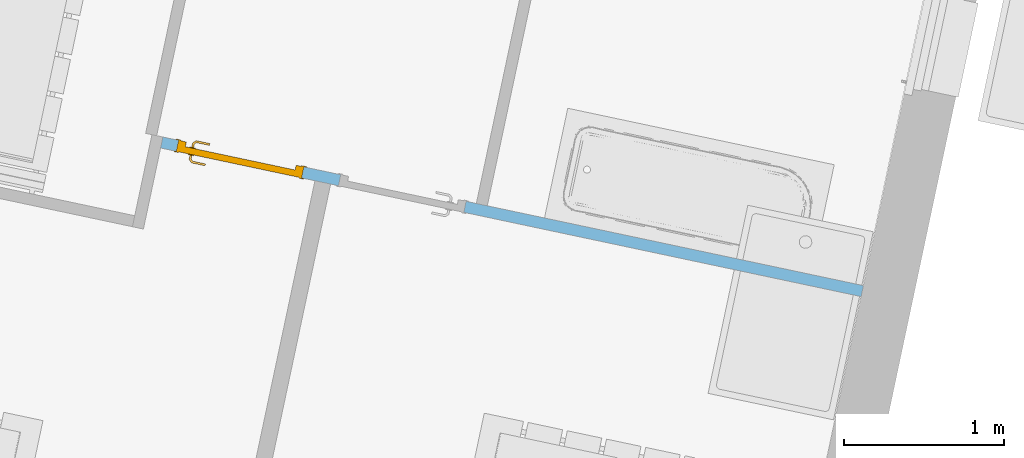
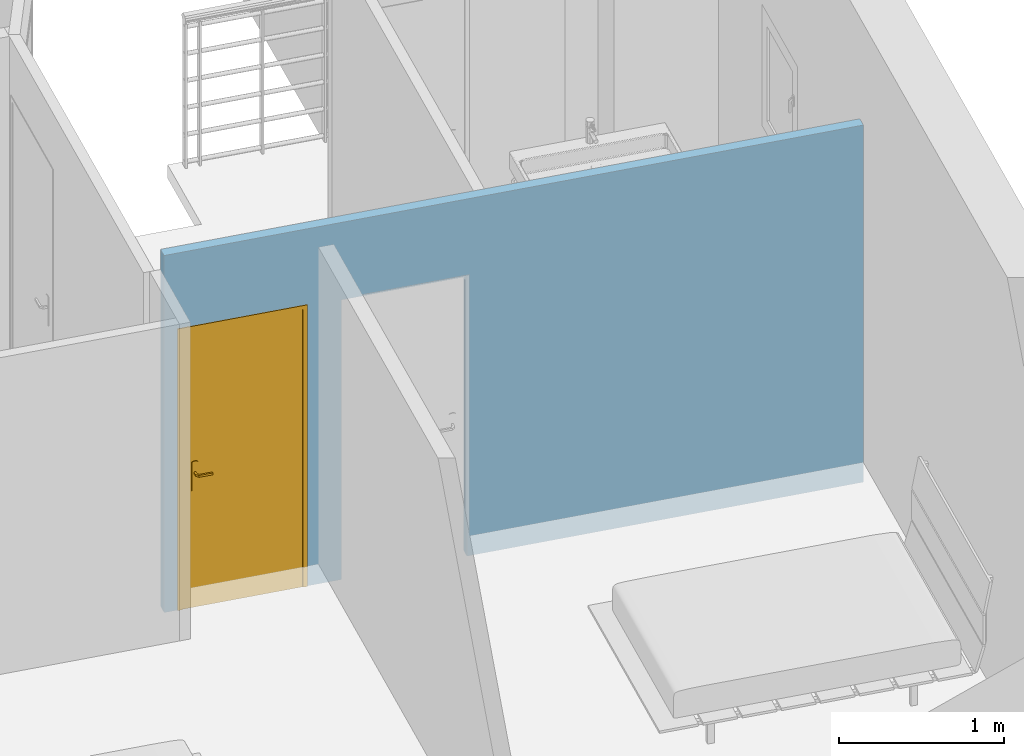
# One storey, part 5 of 18: 1 door, 2 openings, plus 1 element that does not belong to this part.
"""IFC2X3 building model written with IfcOpenShell, lengths in metres."""

from ifc_helpers import new_model, entity, si_unit, converted_unit, derived_unit, direction, frame, frame_2d, origin, place, context, subcontext, project, spatial, rectangle, extrude, faceted_brep, source, transform, mapped, material, material_list, layer, layer_set, layer_usage, type_object, type_shapes, element, fill, save


model = new_model("IFC2X3")

# Units and contexts
model_context = context("Model", 3, precision=1e-05, world=origin(), true_north=direction((6.12303176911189e-17, 1.0)))
body_context = subcontext(model_context, "Body", "Model", "MODEL_VIEW")
ifc_project = project(units=[si_unit("LENGTHUNIT", "METRE"), si_unit("AREAUNIT", "SQUARE_METRE"), si_unit("VOLUMEUNIT", "CUBIC_METRE"), converted_unit("PLANEANGLEUNIT", "DEGREE", entity("IfcRatioMeasure", 0.0174532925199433), si_unit("PLANEANGLEUNIT", "RADIAN"), dimensions=[0, 0, 0, 0, 0, 0, 0]), si_unit("MASSUNIT", "GRAM", prefix="KILO"), derived_unit("MASSDENSITYUNIT", [(si_unit("MASSUNIT", "GRAM", prefix="KILO"), 1), (si_unit("LENGTHUNIT", "METRE"), -3)]), si_unit("TIMEUNIT", "SECOND"), si_unit("FREQUENCYUNIT", "HERTZ"), si_unit("THERMODYNAMICTEMPERATUREUNIT", "DEGREE_CELSIUS"), derived_unit("THERMALTRANSMITTANCEUNIT", [(si_unit("MASSUNIT", "GRAM", prefix="KILO"), 1), (si_unit("THERMODYNAMICTEMPERATUREUNIT", "KELVIN"), -1), (si_unit("TIMEUNIT", "SECOND"), -3)]), derived_unit("VOLUMETRICFLOWRATEUNIT", [(si_unit("LENGTHUNIT", "METRE"), 3), (si_unit("TIMEUNIT", "SECOND"), -1)]), si_unit("ELECTRICCURRENTUNIT", "AMPERE"), si_unit("ELECTRICVOLTAGEUNIT", "VOLT"), si_unit("POWERUNIT", "WATT"), si_unit("FORCEUNIT", "NEWTON", prefix="KILO"), si_unit("ILLUMINANCEUNIT", "LUX"), si_unit("LUMINOUSFLUXUNIT", "LUMEN"), si_unit("LUMINOUSINTENSITYUNIT", "CANDELA"), derived_unit("USERDEFINED", [(si_unit("MASSUNIT", "GRAM", prefix="KILO"), -1), (si_unit("LENGTHUNIT", "METRE"), -2), (si_unit("TIMEUNIT", "SECOND"), 3), (si_unit("LUMINOUSFLUXUNIT", "LUMEN"), 1)]), derived_unit("LINEARVELOCITYUNIT", [(si_unit("LENGTHUNIT", "METRE"), 1), (si_unit("TIMEUNIT", "SECOND"), -1)]), si_unit("PRESSUREUNIT", "PASCAL"), derived_unit("USERDEFINED", [(si_unit("LENGTHUNIT", "METRE"), -2), (si_unit("MASSUNIT", "GRAM", prefix="KILO"), 1), (si_unit("TIMEUNIT", "SECOND"), -2)])], contexts=[model_context])

# Site, building, storey
site_placement = place(None, origin())
site = spatial("IfcSite", under=ifc_project, at=site_placement, Name="Default", CompositionType="ELEMENT")
building_placement = place(site_placement, origin())
building = spatial("IfcBuilding", under=site, at=building_placement, CompositionType="ELEMENT")
storey_placement = place(building_placement, frame((0.0, 0.0, 2.8)))
storey = spatial("IfcBuildingStorey", under=building, at=storey_placement, Name="ETAGE", CompositionType="ELEMENT", Elevation=2.8)

# Wall, openings, door
ifc_material_1 = material(Name="Mur par défaut")
ifc_layer = layer(ifc_material_1, 0.07)
ifc_layer_set = layer_set([ifc_layer], Name="Mur de base:Int.  Platre 70 mm")
ifc_layer_usage = layer_usage(ifc_layer_set, "AXIS2", "NEGATIVE", 0.035)
wall_type = type_object("IfcWallType", Name="Mur de base:Int.  Platre 70 mm", PredefinedType="STANDARD", material=ifc_layer_set)
wall_placement = place(storey_placement, frame((-11.0295461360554, 78.4394398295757, 0.0), z_axis=(0.0, 0.0, 1.0), x_axis=(-0.978238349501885, 0.207484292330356, 0.0)))
wall = element("IfcWallStandardCase", 1, at=wall_placement, inside=storey, type_object=wall_type, material=ifc_layer_usage, Name="Mur de base:Int.  Platre 70 mm", ObjectType="Mur de base:Int.  Platre 70 mm", context=body_context, shape_type="SweptSolid", body=[
    extrude(rectangle(XDim=4.47000000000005, YDim=0.0699999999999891, at=frame_2d((2.23500000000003, -2.4008572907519e-15), x_axis=(-1.0, 0.0))), origin(), (0.0, 0.0, 1.0), 2.65),
])
opening_1_placement = place(wall_placement, frame((2.53500000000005, -0.035, 0.0)))
element("IfcOpeningElement", 2, at=opening_1_placement, cuts=wall, Name="Int. Simple:PP (0.73m x 2.04m):1", ObjectType="Opening", context=body_context, shape_type="SweptSolid", body=[
    extrude(rectangle(XDim=2.075, YDim=0.799999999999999, at=frame_2d((1.0375, 0.4), x_axis=(1.0, 0.0))), frame((0.0, 0.0, 0.0), z_axis=(0.0, 1.0, 0.0), x_axis=(0.0, 0.0, 1.0)), (0.0, 0.0, 1.0), 0.07),
])
opening_2_placement = place(wall_placement, frame((3.57000000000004, -0.035, 0.0)))
opening_2 = element("IfcOpeningElement", 3, at=opening_2_placement, cuts=wall, Name="Int. Simple:PP (0.73m x 2.04m):1", ObjectType="Opening", context=body_context, shape_type="SweptSolid", body=[
    extrude(rectangle(XDim=2.075, YDim=0.799999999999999, at=frame_2d((1.0375, 0.4), x_axis=(1.0, 0.0))), frame((0.0, 0.0, 0.0), z_axis=(0.0, 1.0, 0.0), x_axis=(0.0, 0.0, 1.0)), (0.0, 0.0, 1.0), 0.07),
])
ifc_material_2 = material(Name="Finition Peinture - Blanc satiné")
ifc_material_3 = material(Name="Bois - Mélaminé hêtre")
ifc_material_list_1 = material_list([ifc_material_2, ifc_material_3])
ifc_material_list_2 = material_list([ifc_material_2, ifc_material_3])
door_style = type_object("IfcDoorStyle", Name="PP (0.73m x 2.04m)", ConstructionType="NOTDEFINED", OperationType="SINGLE_SWING_LEFT", ParameterTakesPrecedence=False, Sizeable=False, material=ifc_material_list_2)
shared_shape = source(origin(), body_context, "Body", "Brep", [
    faceted_brep([(0.105352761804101, -0.00500000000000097, 0.866003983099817), (0.115, -0.00500000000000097, 0.870000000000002), (0.114999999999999, -0.00500000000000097, 1.08), (0.1053527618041, -0.00500000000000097, 1.08399601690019), (0.0949999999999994, -0.00500000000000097, 1.08535898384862), (0.0846472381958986, -0.00500000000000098, 1.08399601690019), (0.0749999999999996, -0.00500000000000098, 1.08), (0.0750000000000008, -0.00500000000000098, 0.870000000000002), (0.0846472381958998, -0.00500000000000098, 0.866003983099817), (0.0950000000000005, -0.00500000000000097, 0.86464101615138), (0.1053527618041, 0.0, 1.08399601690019), (0.114999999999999, 0.0, 1.08), (0.115, 0.0, 0.870000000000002), (0.105352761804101, 0.0, 0.866003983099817), (0.0950000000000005, 0.0, 0.86464101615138), (0.0846472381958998, 0.0, 0.866003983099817), (0.0749999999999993, 0.0, 0.870000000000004), (0.0749999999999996, 0.0, 1.08), (0.0846472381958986, 0.0, 1.08399601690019), (0.0949999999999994, 0.0, 1.08535898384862)], [[[0, 1, 2, 3, 4, 5, 6, 7, 8, 9]], [[10, 11, 12, 13, 14, 15, 16, 17, 18, 19]], [[16, 15, 8, 7]], [[8, 15, 14, 9]], [[14, 13, 0, 9]], [[13, 12, 1, 0]], [[2, 1, 12, 11]], [[11, 10, 3, 2]], [[3, 10, 19, 4]], [[19, 18, 5, 4]], [[18, 17, 6, 5]], [[7, 6, 17, 16]]]),
    faceted_brep([(0.105352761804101, 0.039999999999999, 0.866003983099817), (0.115, 0.039999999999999, 0.870000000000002), (0.114999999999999, 0.039999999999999, 1.08), (0.1053527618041, 0.039999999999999, 1.08399601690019), (0.094999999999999, 0.039999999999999, 1.08535898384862), (0.0846472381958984, 0.039999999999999, 1.08399601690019), (0.0749999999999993, 0.039999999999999, 1.08), (0.0750000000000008, 0.039999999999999, 0.870000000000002), (0.0846472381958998, 0.039999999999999, 0.866003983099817), (0.0950000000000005, 0.039999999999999, 0.86464101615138), (0.1053527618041, 0.044999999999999, 1.08399601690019), (0.114999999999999, 0.044999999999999, 1.08), (0.115, 0.044999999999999, 0.870000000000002), (0.105352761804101, 0.044999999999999, 0.866003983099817), (0.0950000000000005, 0.044999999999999, 0.86464101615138), (0.0846472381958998, 0.044999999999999, 0.866003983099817), (0.0749999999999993, 0.044999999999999, 0.870000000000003), (0.0749999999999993, 0.044999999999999, 1.08), (0.0846472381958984, 0.044999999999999, 1.08399601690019), (0.094999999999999, 0.044999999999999, 1.08535898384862)], [[[0, 1, 2, 3, 4, 5, 6, 7, 8, 9]], [[10, 11, 12, 13, 14, 15, 16, 17, 18, 19]], [[11, 10, 3, 2]], [[3, 10, 19, 4]], [[19, 18, 5, 4]], [[18, 17, 6, 5]], [[7, 6, 17, 16]], [[16, 15, 8, 7]], [[8, 15, 14, 9]], [[14, 13, 0, 9]], [[13, 12, 1, 0]], [[2, 1, 12, 11]]]),
    faceted_brep([(0.0929747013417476, -0.00500000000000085, 1.00778044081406), (0.0970252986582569, -0.00500000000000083, 1.00778044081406), (0.101000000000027, -0.00500000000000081, 1.00699999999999), (0.101000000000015, -0.00500000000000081, 0.993000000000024), (0.0970252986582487, -0.00500000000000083, 0.992219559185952), (0.0929747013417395, -0.00500000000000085, 0.99221955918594), (0.0889999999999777, -0.00500000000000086, 0.992999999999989), (0.0889999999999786, -0.00500000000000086, 1.007), (0.0889999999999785, -0.0326509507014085, 1.007), (0.0929747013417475, -0.0310045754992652, 1.00778044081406), (0.109023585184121, -0.047053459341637, 1.00778044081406), (0.110701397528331, -0.0430028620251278, 1.00778044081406), (0.0970252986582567, -0.0293267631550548, 1.00778044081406), (0.101000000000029, -0.0276803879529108, 1.007), (0.101000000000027, -0.0276803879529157, 0.993000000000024), (0.0970252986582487, -0.0293267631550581, 0.992219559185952), (0.110701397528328, -0.0430028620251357, 0.992219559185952), (0.109023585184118, -0.0470534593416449, 0.99221955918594), (0.0929747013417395, -0.0310045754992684, 0.99221955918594), (0.0889999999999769, -0.0326509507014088, 0.992999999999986), (0.107377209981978, -0.051028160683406, 1.007), (0.112347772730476, -0.039028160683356, 1.007), (0.112347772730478, -0.0390281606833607, 0.993000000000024), (0.107377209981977, -0.0510281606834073, 0.992999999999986), (0.195018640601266, -0.051028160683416, 0.992999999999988), (0.195018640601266, -0.0470534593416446, 0.99221955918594), (0.195018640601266, -0.0430028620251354, 0.992219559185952), (0.195018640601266, -0.0390281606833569, 0.993000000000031), (0.195018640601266, -0.0390281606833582, 1.007), (0.195018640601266, -0.0430028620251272, 1.00778044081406), (0.195018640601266, -0.0470534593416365, 1.00778044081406), (0.195018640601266, -0.0510281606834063, 1.00699999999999), (0.147307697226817, -0.0510281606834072, 1.007), (0.152860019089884, -0.0450281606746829, 1.0078786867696), (0.15368320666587, -0.0390281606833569, 1.007), (0.153683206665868, -0.0390281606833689, 0.993000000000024), (0.152860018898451, -0.0450281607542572, 0.992121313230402), (0.147307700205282, -0.0510281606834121, 0.992999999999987)], [[[0, 1, 2, 3, 4, 5, 6, 7]], [[8, 9, 0, 7]], [[9, 10, 11, 12, 1, 0]], [[12, 13, 2, 1]], [[3, 2, 13, 14]], [[14, 15, 4, 3]], [[15, 16, 17, 18, 5, 4]], [[18, 19, 6, 5]], [[7, 6, 19, 8]], [[20, 10, 9, 8]], [[11, 21, 13, 12]], [[14, 13, 21, 22]], [[22, 16, 15, 14]], [[17, 23, 19, 18]], [[8, 19, 23, 20]], [[24, 25, 26, 27, 28, 29, 30, 31]], [[32, 30, 33]], [[31, 30, 32]], [[10, 20, 32]], [[33, 34, 11]], [[21, 11, 34]], [[34, 29, 28]], [[30, 29, 33]], [[29, 34, 33]], [[10, 32, 33]], [[10, 33, 11]], [[22, 21, 34, 28, 27, 35]], [[35, 26, 36]], [[37, 36, 25]], [[22, 35, 16]], [[35, 27, 26]], [[24, 37, 25]], [[23, 17, 37]], [[37, 17, 36]], [[17, 16, 36]], [[16, 35, 36]], [[25, 36, 26]], [[20, 23, 37, 24, 31, 32]]]),
    faceted_brep([(0.0929747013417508, 0.0449999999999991, 1.00778044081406), (0.0889999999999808, 0.0449999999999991, 1.007), (0.0889999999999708, 0.0449999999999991, 0.992999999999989), (0.0929747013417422, 0.0449999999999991, 0.99221955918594), (0.0970252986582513, 0.0449999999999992, 0.992219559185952), (0.10100000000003, 0.0449999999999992, 0.993000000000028), (0.101000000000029, 0.0449999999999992, 1.007), (0.0970252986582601, 0.0449999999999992, 1.00778044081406), (0.10100000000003, 0.0674852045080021, 0.993000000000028), (0.10100000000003, 0.0674852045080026, 1.007), (0.0970252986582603, 0.0691315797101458, 1.00778044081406), (0.110838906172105, 0.0829451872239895, 1.00778044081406), (0.109161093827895, 0.0869957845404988, 1.00778044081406), (0.092974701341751, 0.070809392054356, 1.00778044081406), (0.0889999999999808, 0.0724557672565, 1.007), (0.0889999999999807, 0.0724557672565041, 0.992999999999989), (0.0929747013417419, 0.0708093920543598, 0.99221955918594), (0.109161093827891, 0.0869957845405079, 0.99221955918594), (0.110838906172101, 0.0829451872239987, 0.992219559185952), (0.0970252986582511, 0.0691315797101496, 0.992219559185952), (0.112485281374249, 0.0789704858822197, 0.993000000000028), (0.112485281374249, 0.07897048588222, 1.007), (0.107514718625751, 0.090970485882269, 1.007), (0.107514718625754, 0.0909704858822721, 0.992999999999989), (0.195045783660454, 0.0789704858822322, 0.993000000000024), (0.195045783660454, 0.0829451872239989, 0.992219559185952), (0.195045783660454, 0.0869957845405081, 0.99221955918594), (0.195045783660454, 0.0909704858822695, 0.992999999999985), (0.195045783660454, 0.0909704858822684, 1.007), (0.195045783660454, 0.0869957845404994, 1.00778044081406), (0.195045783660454, 0.0829451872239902, 1.00778044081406), (0.195045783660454, 0.07897048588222, 1.007), (0.153765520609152, 0.0789704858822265, 0.993000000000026), (0.153765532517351, 0.0789704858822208, 1.007), (0.152942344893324, 0.0849704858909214, 1.0078786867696), (0.147445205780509, 0.0909704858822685, 1.007), (0.147445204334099, 0.0909704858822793, 0.992999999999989), (0.152942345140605, 0.0849704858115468, 0.992121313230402)], [[[0, 1, 2, 3, 4, 5, 6, 7]], [[6, 5, 8, 9]], [[9, 10, 7, 6]], [[10, 11, 12, 13, 0, 7]], [[13, 14, 1, 0]], [[2, 1, 14, 15]], [[15, 16, 3, 2]], [[16, 17, 18, 19, 4, 3]], [[19, 8, 5, 4]], [[9, 8, 20, 21]], [[21, 11, 10, 9]], [[12, 22, 14, 13]], [[15, 14, 22, 23]], [[23, 17, 16, 15]], [[18, 20, 8, 19]], [[24, 25, 26, 27, 28, 29, 30, 31]], [[21, 20, 32, 24, 31, 33]], [[33, 30, 34]], [[35, 34, 29]], [[21, 33, 11]], [[33, 31, 30]], [[28, 35, 29]], [[22, 12, 35]], [[35, 12, 34]], [[12, 11, 34]], [[11, 33, 34]], [[29, 34, 30]], [[22, 35, 28, 27, 36, 23]], [[36, 26, 37]], [[27, 26, 36]], [[17, 23, 36]], [[37, 32, 18]], [[20, 18, 32]], [[32, 25, 24]], [[26, 25, 37]], [[25, 32, 37]], [[17, 36, 37]], [[17, 37, 18]]]),
    faceted_brep([(0.0349999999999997, 0.0400000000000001, 2.04), (0.765, 0.0400000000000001, 2.04), (0.765, 0.0400000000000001, 0.0), (0.0349999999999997, 0.0400000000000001, 0.0), (0.0349999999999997, 0.0, 2.04), (0.0349999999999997, 0.0, 0.0), (0.765, 0.0, 0.0), (0.765, 0.0, 2.04)], [[[0, 1, 2, 3]], [[4, 5, 6, 7]], [[1, 0, 4, 7]], [[2, 1, 7, 6]], [[3, 2, 6, 5]], [[0, 3, 5, 4]]]),
    faceted_brep([(0.0, 0.0, 0.0), (0.0, 0.0699999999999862, 0.0), (0.0500000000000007, 0.0699999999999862, 0.0), (0.0500000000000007, 0.04, 0.0), (0.0349999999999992, 0.04, 0.0), (0.0349999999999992, 0.0, 0.0), (0.0, 0.0, 2.07500000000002), (0.0, 0.0699999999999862, 2.07500000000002), (0.800000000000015, 0.0699999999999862, 2.07500000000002), (0.800000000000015, 0.0699999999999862, 0.0), (0.749999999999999, 0.0699999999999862, 0.0), (0.749999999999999, 0.0699999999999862, 2.025), (0.0500000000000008, 0.0699999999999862, 2.025), (0.0500000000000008, 0.04, 2.025), (0.749999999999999, 0.04, 2.025), (0.749999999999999, 0.04, 0.0), (0.765000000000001, 0.04, 0.0), (0.765000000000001, 0.04, 2.04), (0.0349999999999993, 0.04, 2.04), (0.0349999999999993, 0.0, 2.04), (0.765000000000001, 0.0, 2.04), (0.765000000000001, 0.0, 0.0), (0.800000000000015, 0.0, 0.0), (0.800000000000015, 0.0, 2.07500000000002)], [[[0, 1, 2, 3, 4, 5]], [[1, 0, 6, 7]], [[2, 1, 7, 8, 9, 10, 11, 12]], [[3, 2, 12, 13]], [[4, 3, 13, 14, 15, 16, 17, 18]], [[5, 4, 18, 19]], [[0, 5, 19, 20, 21, 22, 23, 6]], [[8, 23, 22, 9]], [[22, 21, 16, 15, 10, 9]], [[14, 11, 10, 15]], [[20, 17, 16, 21]], [[7, 6, 23, 8]], [[13, 12, 11, 14]], [[19, 18, 17, 20]]]),
    faceted_brep([(0.0149999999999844, 0.0699999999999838, 0.0), (-0.0150000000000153, 0.0699999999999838, 0.0), (-0.0150000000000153, 0.0749999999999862, 0.0), (0.0149999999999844, 0.0749999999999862, 0.0), (0.0149999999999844, 0.0699999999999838, 2.06000000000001), (0.784999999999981, 0.0699999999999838, 2.06000000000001), (0.784999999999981, 0.0699999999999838, 0.0), (0.81499999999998, 0.0699999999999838, 0.0), (0.81499999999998, 0.0699999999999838, 2.09000000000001), (-0.0150000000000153, 0.0699999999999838, 2.09000000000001), (-0.0150000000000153, 0.0749999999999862, 2.09000000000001), (0.81499999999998, 0.0749999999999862, 2.09000000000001), (0.81499999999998, 0.0749999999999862, 0.0), (0.784999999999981, 0.0749999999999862, 0.0), (0.784999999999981, 0.0749999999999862, 2.06000000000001), (0.0149999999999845, 0.0749999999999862, 2.06000000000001)], [[[0, 1, 2, 3]], [[1, 0, 4, 5, 6, 7, 8, 9]], [[2, 1, 9, 10]], [[3, 2, 10, 11, 12, 13, 14, 15]], [[0, 3, 15, 4]], [[6, 13, 12, 7]], [[5, 14, 13, 6]], [[11, 8, 7, 12]], [[10, 9, 8, 11]], [[4, 15, 14, 5]]]),
    faceted_brep([(-0.0150000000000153, -0.00499999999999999, 0.0), (0.0149999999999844, -0.00499999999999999, 0.0), (0.0149999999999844, -0.00499999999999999, 2.06000000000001), (0.784999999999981, -0.00499999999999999, 2.06000000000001), (0.784999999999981, -0.00499999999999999, 0.0), (0.81499999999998, -0.00499999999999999, 0.0), (0.81499999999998, -0.00499999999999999, 2.09000000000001), (-0.0150000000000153, -0.00499999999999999, 2.09000000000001), (-0.0150000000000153, 0.0, 0.0), (-0.0150000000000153, 0.0, 2.09000000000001), (0.0149999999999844, 0.0, 0.0), (0.81499999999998, 0.0, 2.09000000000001), (0.81499999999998, 0.0, 0.0), (0.784999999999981, 0.0, 0.0), (0.784999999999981, 0.0, 2.06000000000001), (0.0149999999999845, 0.0, 2.06000000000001)], [[[0, 1, 2, 3, 4, 5, 6, 7]], [[8, 0, 7, 9]], [[10, 8, 9, 11, 12, 13, 14, 15]], [[1, 10, 15, 2]], [[3, 14, 13, 4]], [[11, 6, 5, 12]], [[9, 7, 6, 11]], [[2, 15, 14, 3]], [[4, 13, 12, 5]], [[1, 0, 8, 10]]]),
])
type_shapes(door_style, [shared_shape])
door_placement = place(opening_2_placement, frame((0.799999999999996, 0.0700000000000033, 0.0), z_axis=(0.0, 0.0, 1.0), x_axis=(-1.0, 0.0, 0.0)))
door = element("IfcDoor", 4, at=door_placement, inside=storey, type_object=door_style, material=ifc_material_list_1, Name="Int. Simple:PP (0.73m x 2.04m)", ObjectType="Int. Simple:PP (0.73m x 2.04m)", OverallHeight=2.075, OverallWidth=0.8, context=body_context, shape_type="MappedRepresentation", body=[
    mapped(shared_shape, transform((0.0, 0.0, 0.0), scale=1.0)),
])
fill(opening_2, door)

save(model, "model.ifc")
